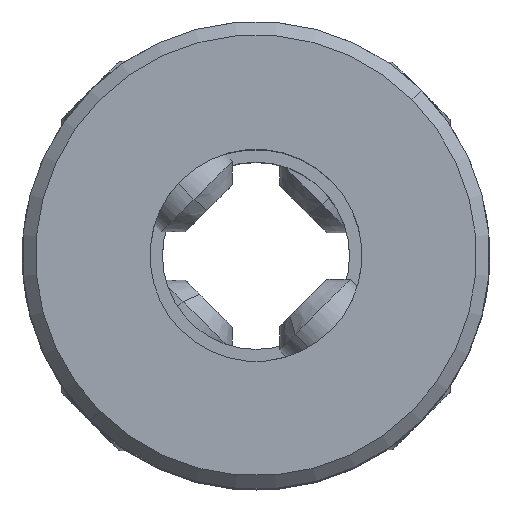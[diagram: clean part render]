
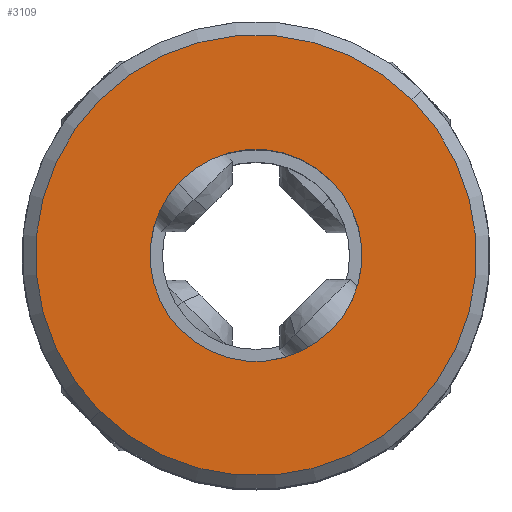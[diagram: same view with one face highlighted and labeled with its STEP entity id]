
A CAD part, top view. The second image highlights one B-rep face of the part: STEP entity #3109.
In plain terms, the highlighted planar face has unit normal (0, 0, 1).
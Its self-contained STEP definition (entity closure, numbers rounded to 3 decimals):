
#82 = VERTEX_POINT ( 'NONE', #2193 ) ;
#303 = EDGE_LOOP ( 'NONE', ( #2775, #809 ) ) ;
#756 = ORIENTED_EDGE ( 'NONE', *, *, #4065, .T. ) ;
#809 = ORIENTED_EDGE ( 'NONE', *, *, #8632, .T. ) ;
#1316 = DIRECTION ( 'NONE',  ( 0., 0., 1. ) ) ;
#1578 = EDGE_CURVE ( 'NONE', #1744, #82, #8895, .T. ) ;
#1744 = VERTEX_POINT ( 'NONE', #9507 ) ;
#1801 = PLANE ( 'NONE',  #8165 ) ;
#1836 = DIRECTION ( 'NONE',  ( 0., 0., -1. ) ) ;
#1842 = CIRCLE ( 'NONE', #2853, 6.6 ) ;
#2117 = DIRECTION ( 'NONE',  ( -0.707, -0.707, 0. ) ) ;
#2193 = CARTESIAN_POINT ( 'NONE',  ( 2.245, 2.245, 11. ) ) ;
#2560 = CARTESIAN_POINT ( 'NONE',  ( 4.667, 4.667, 11. ) ) ;
#2630 = DIRECTION ( 'NONE',  ( -0.707, -0.707, 0. ) ) ;
#2700 = DIRECTION ( 'NONE',  ( -0.707, -0.707, 0. ) ) ;
#2708 = DIRECTION ( 'NONE',  ( 0., 0., -1. ) ) ;
#2775 = ORIENTED_EDGE ( 'NONE', *, *, #1578, .T. ) ;
#2853 = AXIS2_PLACEMENT_3D ( 'NONE', #7079, #1316, #2117 ) ;
#3109 = ADVANCED_FACE ( 'NONE', ( #10339, #5915 ), #1801, .F. ) ;
#3531 = AXIS2_PLACEMENT_3D ( 'NONE', #7298, #10690, #10580 ) ;
#3578 = CARTESIAN_POINT ( 'NONE',  ( 0., 0., 11. ) ) ;
#4065 = EDGE_CURVE ( 'NONE', #7704, #9361, #1842, .T. ) ;
#5150 = AXIS2_PLACEMENT_3D ( 'NONE', #7638, #2708, #2630 ) ;
#5915 = FACE_BOUND ( 'NONE', #303, .T. ) ;
#6018 = CARTESIAN_POINT ( 'NONE',  ( 0., 0., 11. ) ) ;
#6312 = CIRCLE ( 'NONE', #6765, 6.6 ) ;
#6765 = AXIS2_PLACEMENT_3D ( 'NONE', #3578, #10134, #2700 ) ;
#7079 = CARTESIAN_POINT ( 'NONE',  ( 0., 0., 11. ) ) ;
#7127 = CIRCLE ( 'NONE', #3531, 3.175 ) ;
#7298 = CARTESIAN_POINT ( 'NONE',  ( 0., 0., 11. ) ) ;
#7614 = ORIENTED_EDGE ( 'NONE', *, *, #9705, .T. ) ;
#7638 = CARTESIAN_POINT ( 'NONE',  ( 0., 0., 11. ) ) ;
#7704 = VERTEX_POINT ( 'NONE', #2560 ) ;
#8165 = AXIS2_PLACEMENT_3D ( 'NONE', #6018, #1836, #10215 ) ;
#8632 = EDGE_CURVE ( 'NONE', #82, #1744, #7127, .T. ) ;
#8895 = CIRCLE ( 'NONE', #5150, 3.175 ) ;
#9361 = VERTEX_POINT ( 'NONE', #10392 ) ;
#9507 = CARTESIAN_POINT ( 'NONE',  ( -2.245, -2.245, 11. ) ) ;
#9705 = EDGE_CURVE ( 'NONE', #9361, #7704, #6312, .T. ) ;
#10134 = DIRECTION ( 'NONE',  ( 0., 0., 1. ) ) ;
#10215 = DIRECTION ( 'NONE',  ( -0.707, -0.707, 0. ) ) ;
#10219 = EDGE_LOOP ( 'NONE', ( #7614, #756 ) ) ;
#10339 = FACE_OUTER_BOUND ( 'NONE', #10219, .T. ) ;
#10392 = CARTESIAN_POINT ( 'NONE',  ( -4.667, -4.667, 11. ) ) ;
#10580 = DIRECTION ( 'NONE',  ( -0.707, -0.707, 0. ) ) ;
#10690 = DIRECTION ( 'NONE',  ( 0., 0., -1. ) ) ;
